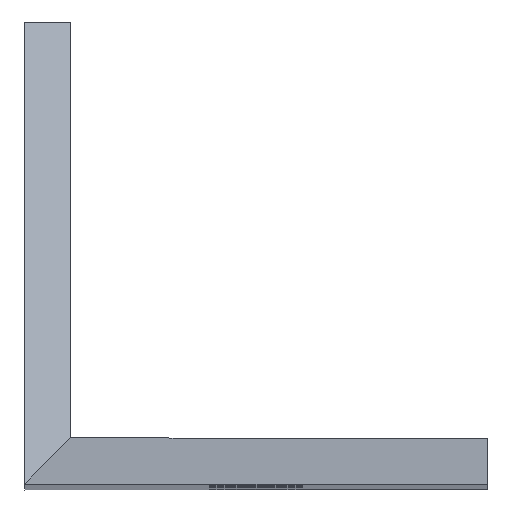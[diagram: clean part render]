
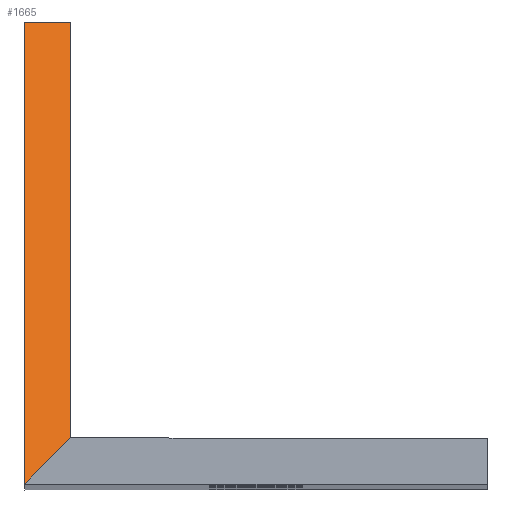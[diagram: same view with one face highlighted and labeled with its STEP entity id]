
A CAD part, top view. The second image highlights one B-rep face of the part: STEP entity #1665.
In plain terms, the highlighted planar face has unit normal (0, 0.707, 0.707).
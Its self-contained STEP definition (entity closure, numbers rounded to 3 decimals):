
#36 = EDGE_CURVE ( 'NONE', #1848, #1816, #385, .T. ) ;
#47 = EDGE_CURVE ( 'NONE', #1870, #1816, #363, .T. ) ;
#65 = EDGE_CURVE ( 'NONE', #1861, #1848, #373, .T. ) ;
#103 = EDGE_CURVE ( 'NONE', #1861, #1870, #458, .T. ) ;
#243 = AXIS2_PLACEMENT_3D ( 'NONE', #1487, #1498, #1497 ) ;
#302 = ORIENTED_EDGE ( 'NONE', *, *, #65, .T. ) ;
#363 = LINE ( 'NONE', #936, #364 ) ;
#364 = VECTOR ( 'NONE', #904, 1000. ) ;
#373 = LINE ( 'NONE', #953, #379 ) ;
#379 = VECTOR ( 'NONE', #966, 1000. ) ;
#385 = LINE ( 'NONE', #932, #397 ) ;
#397 = VECTOR ( 'NONE', #937, 1000. ) ;
#458 = LINE ( 'NONE', #942, #471 ) ;
#471 = VECTOR ( 'NONE', #982, 1000. ) ;
#904 = DIRECTION ( 'NONE',  ( 0., -0.707, 0.707 ) ) ;
#932 = CARTESIAN_POINT ( 'NONE',  ( 0.667, 0.667, 147.133 ) ) ;
#936 = CARTESIAN_POINT ( 'NONE',  ( 2., 0., 147.8 ) ) ;
#937 = DIRECTION ( 'NONE',  ( 0.577, 0.577, -0.577 ) ) ;
#942 = CARTESIAN_POINT ( 'NONE',  ( 0., 20., 127.8 ) ) ;
#953 = CARTESIAN_POINT ( 'NONE',  ( 0., 0., 147.8 ) ) ;
#966 = DIRECTION ( 'NONE',  ( 0., -0.707, 0.707 ) ) ;
#982 = DIRECTION ( 'NONE',  ( 1., 0., 0. ) ) ;
#1487 = CARTESIAN_POINT ( 'NONE',  ( 2., 0., 147.8 ) ) ;
#1497 = DIRECTION ( 'NONE',  ( 0., 0.707, -0.707 ) ) ;
#1498 = DIRECTION ( 'NONE',  ( 0., -0.707, -0.707 ) ) ;
#1504 = PLANE ( 'NONE',  #243 ) ;
#1535 = CARTESIAN_POINT ( 'NONE',  ( 0., 0., 147.8 ) ) ;
#1541 = CARTESIAN_POINT ( 'NONE',  ( 2., 2., 145.8 ) ) ;
#1580 = CARTESIAN_POINT ( 'NONE',  ( 2., 20., 127.8 ) ) ;
#1582 = CARTESIAN_POINT ( 'NONE',  ( 0., 20., 127.8 ) ) ;
#1665 = ADVANCED_FACE ( 'NONE', ( #1691 ), #1504, .F. ) ;
#1691 = FACE_OUTER_BOUND ( 'NONE', #1974, .T. ) ;
#1713 = ORIENTED_EDGE ( 'NONE', *, *, #103, .F. ) ;
#1735 = ORIENTED_EDGE ( 'NONE', *, *, #36, .T. ) ;
#1736 = ORIENTED_EDGE ( 'NONE', *, *, #47, .F. ) ;
#1816 = VERTEX_POINT ( 'NONE', #1541 ) ;
#1848 = VERTEX_POINT ( 'NONE', #1535 ) ;
#1861 = VERTEX_POINT ( 'NONE', #1582 ) ;
#1870 = VERTEX_POINT ( 'NONE', #1580 ) ;
#1974 = EDGE_LOOP ( 'NONE', ( #302, #1735, #1736, #1713 ) ) ;
